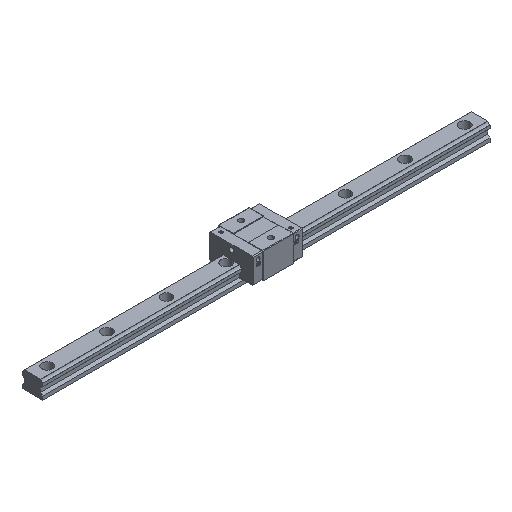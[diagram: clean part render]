
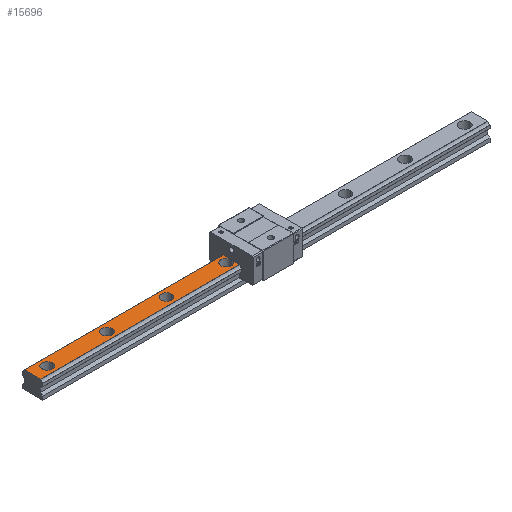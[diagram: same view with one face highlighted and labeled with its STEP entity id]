
A CAD part, isometric view. The second image highlights one B-rep face of the part: STEP entity #15696.
In plain terms, the highlighted planar face has unit normal (0, 0, 1).
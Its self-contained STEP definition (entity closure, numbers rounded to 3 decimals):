
#200 = EDGE_CURVE ( 'NONE', #18270, #4099, #3123, .T. ) ;
#334 = EDGE_LOOP ( 'NONE', ( #10551, #3383 ) ) ;
#358 = VECTOR ( 'NONE', #18891, 1000. ) ;
#412 = EDGE_CURVE ( 'NONE', #623, #10315, #4674, .T. ) ;
#623 = VERTEX_POINT ( 'NONE', #14235 ) ;
#747 = EDGE_CURVE ( 'NONE', #3855, #14727, #6525, .T. ) ;
#813 = DIRECTION ( 'NONE',  ( 0., 0., -1. ) ) ;
#1052 = CARTESIAN_POINT ( 'NONE',  ( -273., 0., 23. ) ) ;
#1183 = DIRECTION ( 'NONE',  ( 0., 0., -1. ) ) ;
#1235 = EDGE_CURVE ( 'NONE', #1305, #15094, #14637, .T. ) ;
#1305 = VERTEX_POINT ( 'NONE', #13641 ) ;
#1344 = CARTESIAN_POINT ( 'NONE',  ( 300., 11.035, 23. ) ) ;
#1596 = PLANE ( 'NONE',  #8129 ) ;
#1701 = DIRECTION ( 'NONE',  ( 0., 0., -1. ) ) ;
#1940 = CARTESIAN_POINT ( 'NONE',  ( -287., 0., 23. ) ) ;
#2354 = CARTESIAN_POINT ( 'NONE',  ( -200., 0., 23. ) ) ;
#2881 = CARTESIAN_POINT ( 'NONE',  ( -40., 0., 23. ) ) ;
#3042 = ORIENTED_EDGE ( 'NONE', *, *, #7768, .F. ) ;
#3123 = CIRCLE ( 'NONE', #14606, 7. ) ;
#3274 = CIRCLE ( 'NONE', #17841, 7. ) ;
#3383 = ORIENTED_EDGE ( 'NONE', *, *, #6816, .T. ) ;
#3588 = DIRECTION ( 'NONE',  ( 0., 0., -1. ) ) ;
#3607 = ORIENTED_EDGE ( 'NONE', *, *, #200, .T. ) ;
#3836 = VERTEX_POINT ( 'NONE', #1052 ) ;
#3855 = VERTEX_POINT ( 'NONE', #4063 ) ;
#3870 = CARTESIAN_POINT ( 'NONE',  ( -300., 0., 23. ) ) ;
#3918 = DIRECTION ( 'NONE',  ( -1., 0., 0. ) ) ;
#4063 = CARTESIAN_POINT ( 'NONE',  ( -300., -11.035, 23. ) ) ;
#4099 = VERTEX_POINT ( 'NONE', #10143 ) ;
#4119 = DIRECTION ( 'NONE',  ( 0., 0., -1. ) ) ;
#4128 = AXIS2_PLACEMENT_3D ( 'NONE', #2881, #16440, #14623 ) ;
#4140 = CARTESIAN_POINT ( 'NONE',  ( 300., 0., 23. ) ) ;
#4396 = LINE ( 'NONE', #14681, #11665 ) ;
#4425 = FACE_BOUND ( 'NONE', #334, .T. ) ;
#4674 = CIRCLE ( 'NONE', #11519, 7. ) ;
#4824 = EDGE_CURVE ( 'NONE', #4099, #18270, #12233, .T. ) ;
#4866 = ORIENTED_EDGE ( 'NONE', *, *, #17360, .T. ) ;
#5134 = DIRECTION ( 'NONE',  ( -1., 0., 0. ) ) ;
#5646 = CARTESIAN_POINT ( 'NONE',  ( -200., 0., 23. ) ) ;
#6354 = CIRCLE ( 'NONE', #17184, 7. ) ;
#6525 = LINE ( 'NONE', #7712, #15522 ) ;
#6601 = CARTESIAN_POINT ( 'NONE',  ( -280., 0., 23. ) ) ;
#6648 = CARTESIAN_POINT ( 'NONE',  ( -33., 0., 23. ) ) ;
#6737 = DIRECTION ( 'NONE',  ( -1., 0., 0. ) ) ;
#6816 = EDGE_CURVE ( 'NONE', #12728, #3836, #6354, .T. ) ;
#7155 = ORIENTED_EDGE ( 'NONE', *, *, #1235, .T. ) ;
#7270 = DIRECTION ( 'NONE',  ( -1., 0., 0. ) ) ;
#7712 = CARTESIAN_POINT ( 'NONE',  ( 300., -11.035, 23. ) ) ;
#7768 = EDGE_CURVE ( 'NONE', #1305, #14727, #4396, .T. ) ;
#8129 = AXIS2_PLACEMENT_3D ( 'NONE', #4140, #16071, #10353 ) ;
#8203 = ORIENTED_EDGE ( 'NONE', *, *, #4824, .T. ) ;
#8271 = CIRCLE ( 'NONE', #12009, 7. ) ;
#8564 = CARTESIAN_POINT ( 'NONE',  ( -280., 0., 23. ) ) ;
#8740 = EDGE_CURVE ( 'NONE', #10315, #623, #3274, .T. ) ;
#8795 = CIRCLE ( 'NONE', #4128, 7. ) ;
#8806 = AXIS2_PLACEMENT_3D ( 'NONE', #18746, #4119, #14397 ) ;
#9633 = CARTESIAN_POINT ( 'NONE',  ( -47., 0., 23. ) ) ;
#10022 = VERTEX_POINT ( 'NONE', #6648 ) ;
#10070 = CARTESIAN_POINT ( 'NONE',  ( -127., 0., 23. ) ) ;
#10071 = AXIS2_PLACEMENT_3D ( 'NONE', #16023, #813, #6737 ) ;
#10102 = VERTEX_POINT ( 'NONE', #9633 ) ;
#10131 = DIRECTION ( 'NONE',  ( 0., -1., 0. ) ) ;
#10143 = CARTESIAN_POINT ( 'NONE',  ( -113., 0., 23. ) ) ;
#10168 = FACE_BOUND ( 'NONE', #12372, .T. ) ;
#10315 = VERTEX_POINT ( 'NONE', #11074 ) ;
#10353 = DIRECTION ( 'NONE',  ( 0., -1., 0. ) ) ;
#10551 = ORIENTED_EDGE ( 'NONE', *, *, #11095, .T. ) ;
#10635 = EDGE_LOOP ( 'NONE', ( #12851, #3042, #7155, #17568 ) ) ;
#11005 = DIRECTION ( 'NONE',  ( 1., 0., 0. ) ) ;
#11074 = CARTESIAN_POINT ( 'NONE',  ( -207., 0., 23. ) ) ;
#11095 = EDGE_CURVE ( 'NONE', #3836, #12728, #8271, .T. ) ;
#11519 = AXIS2_PLACEMENT_3D ( 'NONE', #5646, #16393, #11589 ) ;
#11589 = DIRECTION ( 'NONE',  ( -1., 0., 0. ) ) ;
#11665 = VECTOR ( 'NONE', #10131, 1000. ) ;
#12009 = AXIS2_PLACEMENT_3D ( 'NONE', #6601, #3588, #5134 ) ;
#12136 = VECTOR ( 'NONE', #7270, 1000. ) ;
#12233 = CIRCLE ( 'NONE', #10071, 7. ) ;
#12372 = EDGE_LOOP ( 'NONE', ( #12977, #12762 ) ) ;
#12527 = CARTESIAN_POINT ( 'NONE',  ( -32.9, -11.035, 23. ) ) ;
#12728 = VERTEX_POINT ( 'NONE', #1940 ) ;
#12762 = ORIENTED_EDGE ( 'NONE', *, *, #8740, .T. ) ;
#12851 = ORIENTED_EDGE ( 'NONE', *, *, #747, .T. ) ;
#12967 = FACE_OUTER_BOUND ( 'NONE', #10635, .T. ) ;
#12977 = ORIENTED_EDGE ( 'NONE', *, *, #412, .T. ) ;
#13090 = LINE ( 'NONE', #3870, #358 ) ;
#13273 = CARTESIAN_POINT ( 'NONE',  ( -120., 0., 23. ) ) ;
#13541 = DIRECTION ( 'NONE',  ( -1., 0., 0. ) ) ;
#13626 = EDGE_LOOP ( 'NONE', ( #4866, #17015 ) ) ;
#13641 = CARTESIAN_POINT ( 'NONE',  ( -32.9, 11.035, 23. ) ) ;
#13963 = EDGE_CURVE ( 'NONE', #15094, #3855, #13090, .T. ) ;
#14235 = CARTESIAN_POINT ( 'NONE',  ( -193., 0., 23. ) ) ;
#14343 = CARTESIAN_POINT ( 'NONE',  ( -300., 11.035, 23. ) ) ;
#14397 = DIRECTION ( 'NONE',  ( -1., 0., 0. ) ) ;
#14606 = AXIS2_PLACEMENT_3D ( 'NONE', #13273, #1701, #13541 ) ;
#14623 = DIRECTION ( 'NONE',  ( -1., 0., 0. ) ) ;
#14637 = LINE ( 'NONE', #1344, #12136 ) ;
#14681 = CARTESIAN_POINT ( 'NONE',  ( -32.9, -11.035, 23. ) ) ;
#14727 = VERTEX_POINT ( 'NONE', #12527 ) ;
#14895 = FACE_BOUND ( 'NONE', #13626, .T. ) ;
#14975 = EDGE_LOOP ( 'NONE', ( #8203, #3607 ) ) ;
#15094 = VERTEX_POINT ( 'NONE', #14343 ) ;
#15522 = VECTOR ( 'NONE', #11005, 1000. ) ;
#15598 = CIRCLE ( 'NONE', #8806, 7. ) ;
#15696 = ADVANCED_FACE ( 'NONE', ( #14895, #19065, #10168, #4425, #12967 ), #1596, .F. ) ;
#16023 = CARTESIAN_POINT ( 'NONE',  ( -120., 0., 23. ) ) ;
#16071 = DIRECTION ( 'NONE',  ( 0., 0., -1. ) ) ;
#16123 = DIRECTION ( 'NONE',  ( -1., 0., 0. ) ) ;
#16393 = DIRECTION ( 'NONE',  ( 0., 0., -1. ) ) ;
#16440 = DIRECTION ( 'NONE',  ( 0., 0., -1. ) ) ;
#17015 = ORIENTED_EDGE ( 'NONE', *, *, #18535, .T. ) ;
#17095 = DIRECTION ( 'NONE',  ( 0., 0., -1. ) ) ;
#17184 = AXIS2_PLACEMENT_3D ( 'NONE', #8564, #1183, #16123 ) ;
#17360 = EDGE_CURVE ( 'NONE', #10022, #10102, #8795, .T. ) ;
#17568 = ORIENTED_EDGE ( 'NONE', *, *, #13963, .T. ) ;
#17841 = AXIS2_PLACEMENT_3D ( 'NONE', #2354, #17095, #3918 ) ;
#18270 = VERTEX_POINT ( 'NONE', #10070 ) ;
#18535 = EDGE_CURVE ( 'NONE', #10102, #10022, #15598, .T. ) ;
#18746 = CARTESIAN_POINT ( 'NONE',  ( -40., 0., 23. ) ) ;
#18891 = DIRECTION ( 'NONE',  ( 0., -1., 0. ) ) ;
#19065 = FACE_BOUND ( 'NONE', #14975, .T. ) ;
